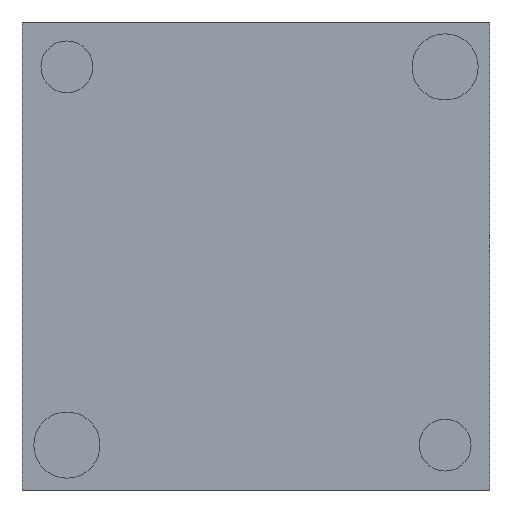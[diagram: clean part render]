
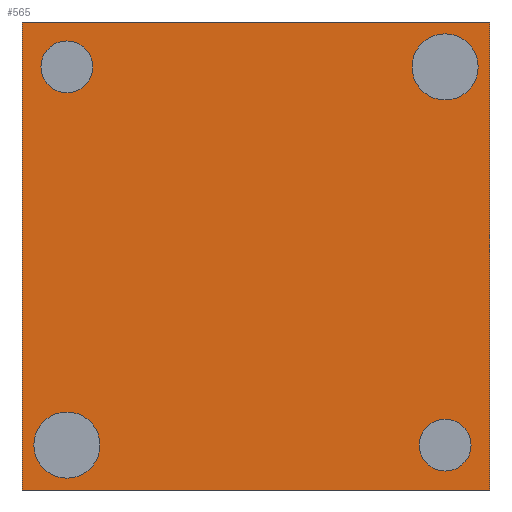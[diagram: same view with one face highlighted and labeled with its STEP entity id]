
A CAD part, front view. The second image highlights one B-rep face of the part: STEP entity #565.
In plain terms, the highlighted planar face has unit normal (0, -1, 0).
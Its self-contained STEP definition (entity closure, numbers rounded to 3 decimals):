
#19 = DIRECTION ( 'NONE',  ( 0., 0., 1. ) ) ;
#98 = CARTESIAN_POINT ( 'NONE',  ( 49.616, 0., -19.369 ) ) ;
#310 = VERTEX_POINT ( 'NONE', #10882 ) ;
#444 = VERTEX_POINT ( 'NONE', #15218 ) ;
#565 = ADVANCED_FACE ( 'NONE', ( #7721, #13665, #12675, #9953, #2361 ), #5135, .T. ) ;
#727 = CARTESIAN_POINT ( 'NONE',  ( 49.616, 0., -17.969 ) ) ;
#781 = CARTESIAN_POINT ( 'NONE',  ( 49.616, 0., -26.119 ) ) ;
#835 = CARTESIAN_POINT ( 'NONE',  ( 41.616, 0., -26.669 ) ) ;
#872 = DIRECTION ( 'NONE',  ( 0., 0., -1. ) ) ;
#1037 = AXIS2_PLACEMENT_3D ( 'NONE', #11479, #7769, #1563 ) ;
#1563 = DIRECTION ( 'NONE',  ( 0., 0., 1. ) ) ;
#1684 = DIRECTION ( 'NONE',  ( 0., 1., 0. ) ) ;
#1786 = EDGE_LOOP ( 'NONE', ( #4488, #6779 ) ) ;
#1854 = EDGE_LOOP ( 'NONE', ( #12034, #11881, #6245, #14521 ) ) ;
#2093 = AXIS2_PLACEMENT_3D ( 'NONE', #14253, #13365, #10489 ) ;
#2361 = FACE_OUTER_BOUND ( 'NONE', #1854, .T. ) ;
#2589 = EDGE_CURVE ( 'NONE', #10098, #14424, #12008, .T. ) ;
#2603 = VECTOR ( 'NONE', #9294, 1000. ) ;
#2612 = DIRECTION ( 'NONE',  ( 0., -1., 0. ) ) ;
#2962 = AXIS2_PLACEMENT_3D ( 'NONE', #15443, #1684, #4077 ) ;
#2999 = ORIENTED_EDGE ( 'NONE', *, *, #15462, .T. ) ;
#3036 = LINE ( 'NONE', #3945, #2603 ) ;
#3103 = EDGE_CURVE ( 'NONE', #15504, #14023, #9337, .T. ) ;
#3150 = CIRCLE ( 'NONE', #2093, 0.55 ) ;
#3241 = CIRCLE ( 'NONE', #8257, 0.55 ) ;
#3945 = CARTESIAN_POINT ( 'NONE',  ( 50.566, 0., -17.719 ) ) ;
#3985 = DIRECTION ( 'NONE',  ( 0., 0., 1. ) ) ;
#4057 = CARTESIAN_POINT ( 'NONE',  ( 50.566, 0., -27.619 ) ) ;
#4077 = DIRECTION ( 'NONE',  ( 0., 0., 1. ) ) ;
#4084 = AXIS2_PLACEMENT_3D ( 'NONE', #835, #8518, #13556 ) ;
#4182 = CARTESIAN_POINT ( 'NONE',  ( 40.666, 0., -17.719 ) ) ;
#4220 = ORIENTED_EDGE ( 'NONE', *, *, #11082, .T. ) ;
#4488 = ORIENTED_EDGE ( 'NONE', *, *, #11117, .T. ) ;
#4665 = LINE ( 'NONE', #9799, #9757 ) ;
#4749 = EDGE_CURVE ( 'NONE', #5013, #310, #3036, .T. ) ;
#4854 = DIRECTION ( 'NONE',  ( 0., 1., 0. ) ) ;
#5013 = VERTEX_POINT ( 'NONE', #6890 ) ;
#5135 = PLANE ( 'NONE',  #8593 ) ;
#5212 = DIRECTION ( 'NONE',  ( 0., 1., 0. ) ) ;
#5530 = DIRECTION ( 'NONE',  ( -1., 0., 0. ) ) ;
#5647 = AXIS2_PLACEMENT_3D ( 'NONE', #16139, #4854, #15061 ) ;
#5707 = EDGE_CURVE ( 'NONE', #5732, #5013, #6593, .T. ) ;
#5721 = CIRCLE ( 'NONE', #12333, 0.55 ) ;
#5732 = VERTEX_POINT ( 'NONE', #7925 ) ;
#5901 = CARTESIAN_POINT ( 'NONE',  ( 41.616, 0., -19.219 ) ) ;
#6146 = DIRECTION ( 'NONE',  ( 0., 0., -1. ) ) ;
#6227 = VERTEX_POINT ( 'NONE', #781 ) ;
#6245 = ORIENTED_EDGE ( 'NONE', *, *, #16095, .F. ) ;
#6285 = CARTESIAN_POINT ( 'NONE',  ( 41.616, 0., -18.669 ) ) ;
#6382 = EDGE_LOOP ( 'NONE', ( #14805, #14397 ) ) ;
#6593 = LINE ( 'NONE', #4182, #6740 ) ;
#6629 = CARTESIAN_POINT ( 'NONE',  ( 49.616, 0., -26.669 ) ) ;
#6740 = VECTOR ( 'NONE', #9214, 1000. ) ;
#6779 = ORIENTED_EDGE ( 'NONE', *, *, #7038, .T. ) ;
#6890 = CARTESIAN_POINT ( 'NONE',  ( 40.666, 0., -17.719 ) ) ;
#7038 = EDGE_CURVE ( 'NONE', #11680, #6227, #5721, .T. ) ;
#7403 = CARTESIAN_POINT ( 'NONE',  ( 0., 0., 0. ) ) ;
#7511 = AXIS2_PLACEMENT_3D ( 'NONE', #9341, #9508, #14516 ) ;
#7642 = EDGE_LOOP ( 'NONE', ( #13767, #2999 ) ) ;
#7721 = FACE_BOUND ( 'NONE', #7642, .T. ) ;
#7769 = DIRECTION ( 'NONE',  ( 0., 1., 0. ) ) ;
#7925 = CARTESIAN_POINT ( 'NONE',  ( 40.666, 0., -27.619 ) ) ;
#8257 = AXIS2_PLACEMENT_3D ( 'NONE', #6285, #8745, #19 ) ;
#8270 = EDGE_CURVE ( 'NONE', #10249, #13608, #3241, .T. ) ;
#8518 = DIRECTION ( 'NONE',  ( 0., 1., 0. ) ) ;
#8593 = AXIS2_PLACEMENT_3D ( 'NONE', #7403, #2612, #6146 ) ;
#8660 = ORIENTED_EDGE ( 'NONE', *, *, #8270, .T. ) ;
#8745 = DIRECTION ( 'NONE',  ( 0., 1., 0. ) ) ;
#9199 = CIRCLE ( 'NONE', #1037, 0.55 ) ;
#9214 = DIRECTION ( 'NONE',  ( 0., 0., 1. ) ) ;
#9294 = DIRECTION ( 'NONE',  ( 1., 0., 0. ) ) ;
#9337 = CIRCLE ( 'NONE', #7511, 0.7 ) ;
#9341 = CARTESIAN_POINT ( 'NONE',  ( 49.616, 0., -18.669 ) ) ;
#9347 = CIRCLE ( 'NONE', #5647, 0.7 ) ;
#9454 = EDGE_CURVE ( 'NONE', #14023, #15504, #9347, .T. ) ;
#9508 = DIRECTION ( 'NONE',  ( 0., 1., 0. ) ) ;
#9757 = VECTOR ( 'NONE', #872, 1000. ) ;
#9799 = CARTESIAN_POINT ( 'NONE',  ( 50.566, 0., -17.719 ) ) ;
#9953 = FACE_BOUND ( 'NONE', #12585, .T. ) ;
#10098 = VERTEX_POINT ( 'NONE', #11076 ) ;
#10249 = VERTEX_POINT ( 'NONE', #11723 ) ;
#10489 = DIRECTION ( 'NONE',  ( 0., 0., 1. ) ) ;
#10882 = CARTESIAN_POINT ( 'NONE',  ( 50.566, 0., -17.719 ) ) ;
#11076 = CARTESIAN_POINT ( 'NONE',  ( 41.616, 0., -25.969 ) ) ;
#11082 = EDGE_CURVE ( 'NONE', #13608, #10249, #9199, .T. ) ;
#11117 = EDGE_CURVE ( 'NONE', #6227, #11680, #3150, .T. ) ;
#11479 = CARTESIAN_POINT ( 'NONE',  ( 41.616, 0., -18.669 ) ) ;
#11491 = EDGE_CURVE ( 'NONE', #310, #444, #4665, .T. ) ;
#11591 = LINE ( 'NONE', #4057, #14822 ) ;
#11609 = CARTESIAN_POINT ( 'NONE',  ( 41.616, 0., -27.369 ) ) ;
#11680 = VERTEX_POINT ( 'NONE', #13650 ) ;
#11723 = CARTESIAN_POINT ( 'NONE',  ( 41.616, 0., -18.119 ) ) ;
#11881 = ORIENTED_EDGE ( 'NONE', *, *, #5707, .F. ) ;
#12008 = CIRCLE ( 'NONE', #4084, 0.7 ) ;
#12034 = ORIENTED_EDGE ( 'NONE', *, *, #4749, .F. ) ;
#12204 = CIRCLE ( 'NONE', #2962, 0.7 ) ;
#12333 = AXIS2_PLACEMENT_3D ( 'NONE', #6629, #5212, #3985 ) ;
#12585 = EDGE_LOOP ( 'NONE', ( #8660, #4220 ) ) ;
#12675 = FACE_BOUND ( 'NONE', #6382, .T. ) ;
#13365 = DIRECTION ( 'NONE',  ( 0., 1., 0. ) ) ;
#13556 = DIRECTION ( 'NONE',  ( 0., 0., 1. ) ) ;
#13608 = VERTEX_POINT ( 'NONE', #5901 ) ;
#13650 = CARTESIAN_POINT ( 'NONE',  ( 49.616, 0., -27.219 ) ) ;
#13665 = FACE_BOUND ( 'NONE', #1786, .T. ) ;
#13767 = ORIENTED_EDGE ( 'NONE', *, *, #2589, .T. ) ;
#14023 = VERTEX_POINT ( 'NONE', #727 ) ;
#14253 = CARTESIAN_POINT ( 'NONE',  ( 49.616, 0., -26.669 ) ) ;
#14397 = ORIENTED_EDGE ( 'NONE', *, *, #3103, .T. ) ;
#14424 = VERTEX_POINT ( 'NONE', #11609 ) ;
#14516 = DIRECTION ( 'NONE',  ( 0., 0., 1. ) ) ;
#14521 = ORIENTED_EDGE ( 'NONE', *, *, #11491, .F. ) ;
#14805 = ORIENTED_EDGE ( 'NONE', *, *, #9454, .T. ) ;
#14822 = VECTOR ( 'NONE', #5530, 1000. ) ;
#15061 = DIRECTION ( 'NONE',  ( 0., 0., 1. ) ) ;
#15218 = CARTESIAN_POINT ( 'NONE',  ( 50.566, 0., -27.619 ) ) ;
#15443 = CARTESIAN_POINT ( 'NONE',  ( 41.616, 0., -26.669 ) ) ;
#15462 = EDGE_CURVE ( 'NONE', #14424, #10098, #12204, .T. ) ;
#15504 = VERTEX_POINT ( 'NONE', #98 ) ;
#16095 = EDGE_CURVE ( 'NONE', #444, #5732, #11591, .T. ) ;
#16139 = CARTESIAN_POINT ( 'NONE',  ( 49.616, 0., -18.669 ) ) ;
